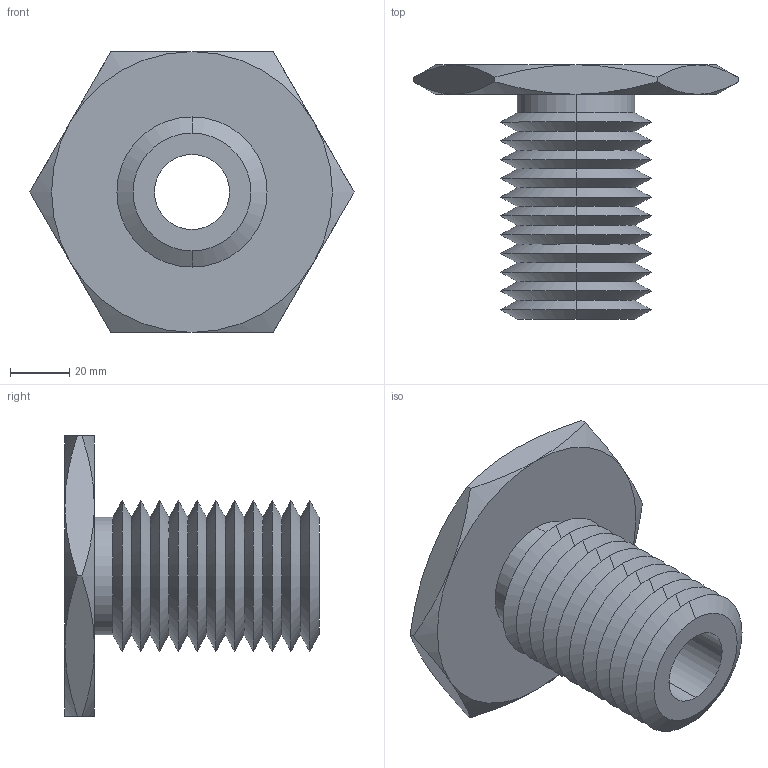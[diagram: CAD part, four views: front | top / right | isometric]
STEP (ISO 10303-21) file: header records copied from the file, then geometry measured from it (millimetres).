
FILE_DESCRIPTION (( 'STEP AP203' ), '1' );
FILE_NAME ('63302.W5200_1,00 UNC-8.step', '2013-12-08T11:50:19', ( 'User' ), ( '' ), 'SwSTEP 2.0', 'SolidWorks 2009', '' );
FILE_SCHEMA (( 'CONFIG_CONTROL_DESIGN' ));
Length unit declared in the file: millimetre
Products named in the file (1): 63302.W5200_1,00 UNC-8
Bounding box: 109.7 x 86 x 95 mm (x, y, z)
Volume: 153071.3 mm3; surface area: 44554.4 mm2
Topology: 1 solids, 1 shells, 71 faces, 146 edges, 78 vertices
Faces by surface type: cone 58, plane 9, cylinder 4
Entity records: 2071 total; most frequent: CARTESIAN_POINT 512, DIRECTION 332, ORIENTED_EDGE 292, EDGE_CURVE 146, AXIS2_PLACEMENT_3D 138, VERTEX_POINT 78, EDGE_LOOP 74, ADVANCED_FACE 71
